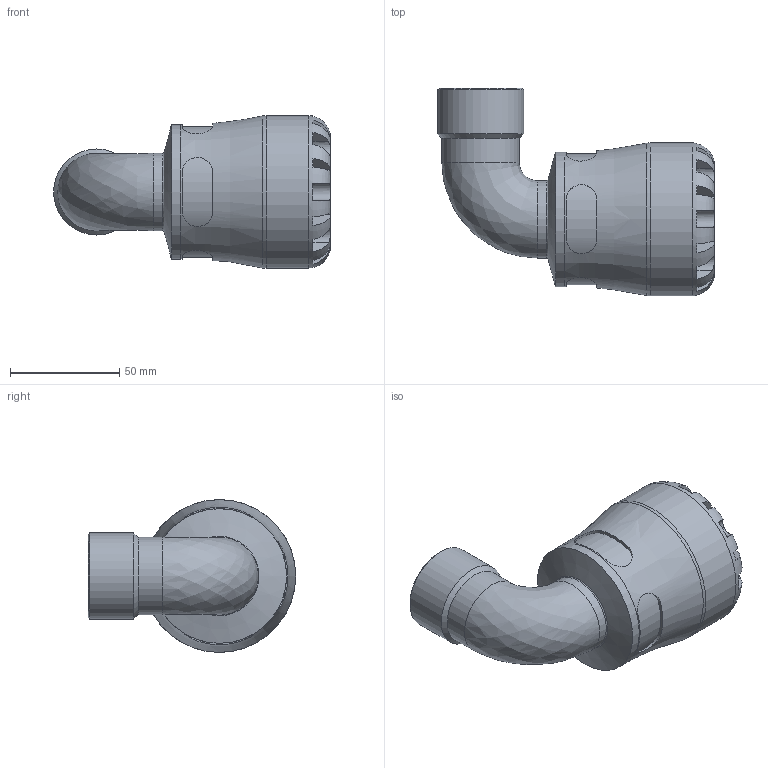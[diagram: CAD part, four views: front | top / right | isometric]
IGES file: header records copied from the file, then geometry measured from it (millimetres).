
Global section: file name: 107600040010_197600040010.ipt; native system: Autodesk Inventor 2015; preprocessor: unknown; author: KIM; date: 20170518.120356; units: millimetre
Bounding box: 126.69 x 95 x 70 mm (x, y, z)
Volume: 191153.6 mm3; surface area: 47957.8 mm2
Topology: 1 solids, 1 shells, 108 faces, 277 edges, 176 vertices
Faces by surface type: plane 60, revolution 28, cylinder 17, cone 3
Full cylindrical faces by diameter (mm): 35.44 x2, 39.378 x1, 61.6 x1, 70 x1
